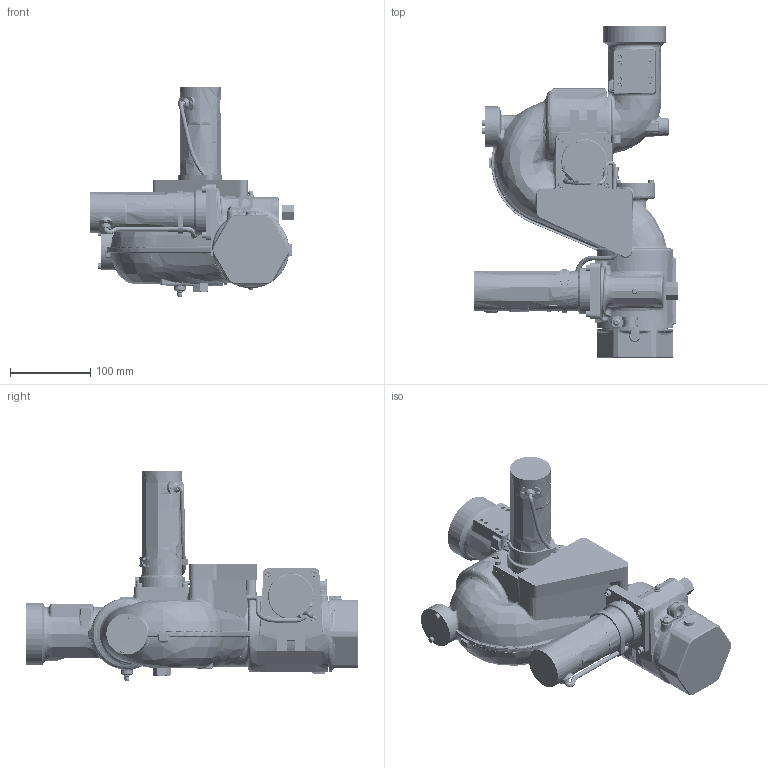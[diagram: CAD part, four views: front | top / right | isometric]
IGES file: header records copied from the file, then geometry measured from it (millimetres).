
Start section: SolidWorks IGES file using analytic representation for surfaces
Global section: file name: Z:\New Product Development\Projects\Project Folders 2016\Stage Gate\Mining Monitor\Engineering\Outputs\Website Documents\Nitro HD Monitor.IGS; native system: SolidWorks 2017; preprocessor: SolidWorks 2017; author: kprahl; date: 170824.134448; units: inch
Bounding box: 254.89 x 413.08 x 260.6 mm (x, y, z)
Surface area: 422098.4 mm2 (no closed solid volume)
Topology: 0 solids, 0 shells, 3269 faces, 38468 edges, 38423 vertices
Faces by surface type: bspline 2239, revolution 1030
